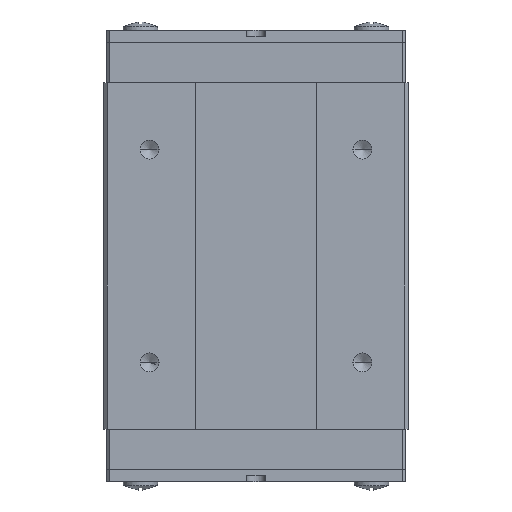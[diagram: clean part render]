
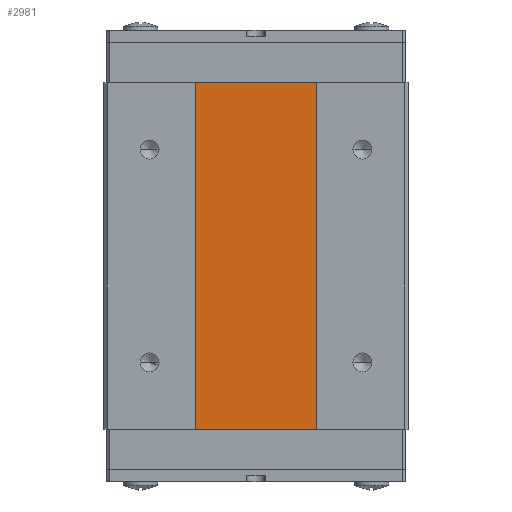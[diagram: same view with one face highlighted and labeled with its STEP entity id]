
A CAD part, top view. The second image highlights one B-rep face of the part: STEP entity #2981.
In plain terms, the highlighted planar face has unit normal (0, 0, 1).
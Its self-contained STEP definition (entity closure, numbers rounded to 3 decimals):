
#1139=VERTEX_POINT('',#3280);
#1645=VERTEX_POINT('',#3841);
#2323=EDGE_CURVE('',#2711,#1645,#4583,.T.);
#2489=VERTEX_POINT('',#4770);
#2711=VERTEX_POINT('',#5013);
#2769=EDGE_CURVE('',#1645,#2489,#5077,.T.);
#2981=ADVANCED_FACE('',(#5304),#5305,.T.);
#3019=EDGE_CURVE('',#1139,#2711,#5344,.T.);
#3079=EDGE_CURVE('',#2489,#1139,#5410,.T.);
#3280=CARTESIAN_POINT('',(-8.0,52.5,13.75));
#3841=CARTESIAN_POINT('',(8.0,6.9,13.75));
#4583=LINE('',#7692,#7693);
#4770=CARTESIAN_POINT('',(-8.0,6.9,13.75));
#5013=CARTESIAN_POINT('',(8.0,52.5,13.75));
#5077=LINE('',#8505,#8506);
#5304=FACE_OUTER_BOUND('',#8888,.T.);
#5305=PLANE('',#8889);
#5344=LINE('',#8952,#8953);
#5410=LINE('',#9046,#9047);
#7692=CARTESIAN_POINT('',(8.0,29.7,13.75));
#7693=VECTOR('',#10700,1.0);
#8505=CARTESIAN_POINT('',(0.,6.9,13.75));
#8506=VECTOR('',#11216,1.0);
#8888=EDGE_LOOP('',(#11426,#11427,#11428,#11429));
#8889=AXIS2_PLACEMENT_3D('',#11430,#11431,#11432);
#8952=CARTESIAN_POINT('',(0.,52.5,13.75));
#8953=VECTOR('',#11465,1.0);
#9046=CARTESIAN_POINT('',(-8.0,29.7,13.75));
#9047=VECTOR('',#11535,1.0);
#10700=DIRECTION('',(0.0,-1.0,0.0));
#11216=DIRECTION('',(-1.0,0.0,0.0));
#11426=ORIENTED_EDGE('',*,*,#2323,.F.);
#11427=ORIENTED_EDGE('',*,*,#3019,.F.);
#11428=ORIENTED_EDGE('',*,*,#3079,.F.);
#11429=ORIENTED_EDGE('',*,*,#2769,.F.);
#11430=CARTESIAN_POINT('',(0.0,29.7,13.75));
#11431=DIRECTION('',(0.0,0.0,1.0));
#11432=DIRECTION('',(1.0,0.0,0.0));
#11465=DIRECTION('',(1.0,0.0,-0.0));
#11535=DIRECTION('',(0.0,1.0,0.0));
